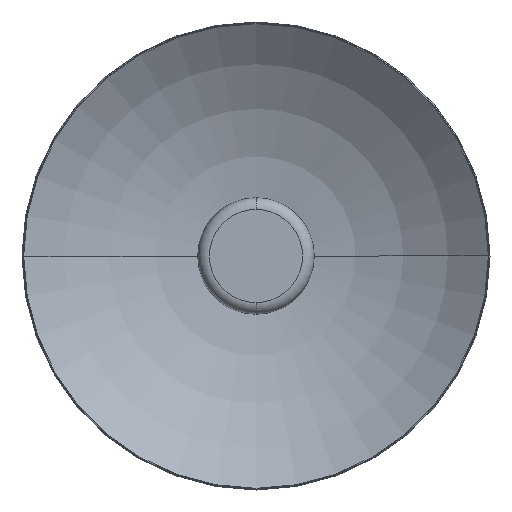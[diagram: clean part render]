
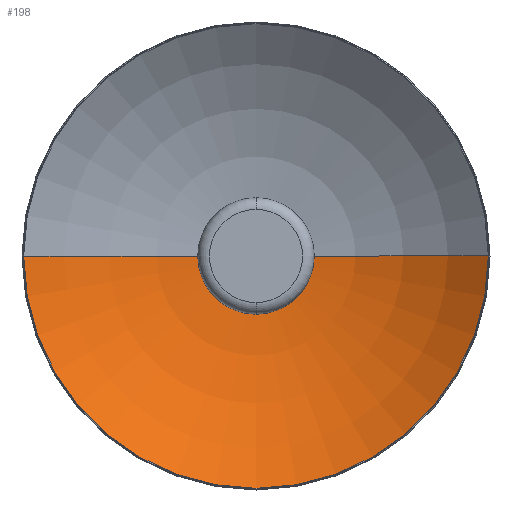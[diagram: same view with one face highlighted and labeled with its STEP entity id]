
A CAD part, front view. The second image highlights one B-rep face of the part: STEP entity #198.
In plain terms, the highlighted toroidal (fillet/blend) face has major radius 26.878 mm and minor radius 265 mm.
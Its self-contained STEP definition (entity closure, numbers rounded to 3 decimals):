
#16 = DIRECTION ( 'NONE',  ( 1., 0., 0. ) ) ;
#73 = ORIENTED_EDGE ( 'NONE', *, *, #576, .T. ) ;
#80 = EDGE_CURVE ( 'NONE', #333, #872, #291, .T. ) ;
#88 = DIRECTION ( 'NONE',  ( 0., -1., 0. ) ) ;
#91 = CARTESIAN_POINT ( 'NONE',  ( 0., -35.674, 0. ) ) ;
#100 = CIRCLE ( 'NONE', #457, 265. ) ;
#123 = EDGE_CURVE ( 'NONE', #333, #471, #377, .T. ) ;
#142 = DIRECTION ( 'NONE',  ( 1., 0., 0. ) ) ;
#187 = ORIENTED_EDGE ( 'NONE', *, *, #123, .F. ) ;
#198 = ADVANCED_FACE ( 'NONE', ( #268 ), #642, .F. ) ;
#251 = CARTESIAN_POINT ( 'NONE',  ( 0., -236.633, 0. ) ) ;
#268 = FACE_OUTER_BOUND ( 'NONE', #724, .T. ) ;
#291 = CIRCLE ( 'NONE', #581, 199.622 ) ;
#315 = AXIS2_PLACEMENT_3D ( 'NONE', #723, #519, #884 ) ;
#333 = VERTEX_POINT ( 'NONE', #403 ) ;
#377 = CIRCLE ( 'NONE', #315, 265. ) ;
#391 = DIRECTION ( 'NONE',  ( 0., 1., 0. ) ) ;
#402 = DIRECTION ( 'NONE',  ( -1., 0., 0. ) ) ;
#403 = CARTESIAN_POINT ( 'NONE',  ( -199.622, -35.674, 0. ) ) ;
#457 = AXIS2_PLACEMENT_3D ( 'NONE', #641, #570, #142 ) ;
#471 = VERTEX_POINT ( 'NONE', #936 ) ;
#519 = DIRECTION ( 'NONE',  ( 0., 0., -1. ) ) ;
#570 = DIRECTION ( 'NONE',  ( 0., 0., 1. ) ) ;
#576 = EDGE_CURVE ( 'NONE', #872, #471, #100, .T. ) ;
#581 = AXIS2_PLACEMENT_3D ( 'NONE', #91, #88, #16 ) ;
#641 = CARTESIAN_POINT ( 'NONE',  ( 26.878, -236.633, 0. ) ) ;
#642 = TOROIDAL_SURFACE ( 'NONE', #814, 26.878, 265. ) ;
#723 = CARTESIAN_POINT ( 'NONE',  ( -26.878, -236.633, 0. ) ) ;
#724 = EDGE_LOOP ( 'NONE', ( #898, #73, #187 ) ) ;
#814 = AXIS2_PLACEMENT_3D ( 'NONE', #251, #391, #402 ) ;
#872 = VERTEX_POINT ( 'NONE', #894 ) ;
#884 = DIRECTION ( 'NONE',  ( -1., 0., 0. ) ) ;
#894 = CARTESIAN_POINT ( 'NONE',  ( 199.622, -35.674, 0. ) ) ;
#898 = ORIENTED_EDGE ( 'NONE', *, *, #80, .T. ) ;
#936 = CARTESIAN_POINT ( 'NONE',  ( 0., 27., 0. ) ) ;
